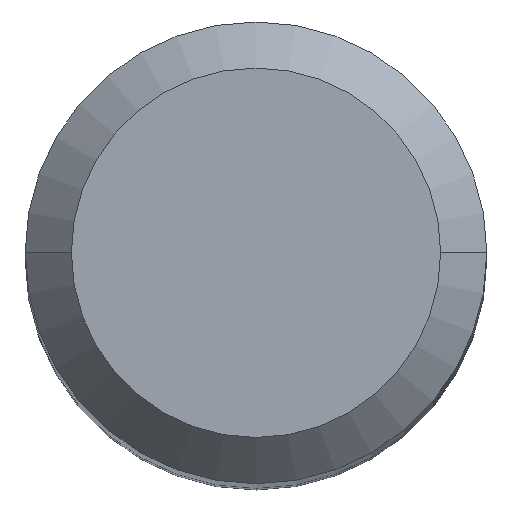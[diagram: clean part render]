
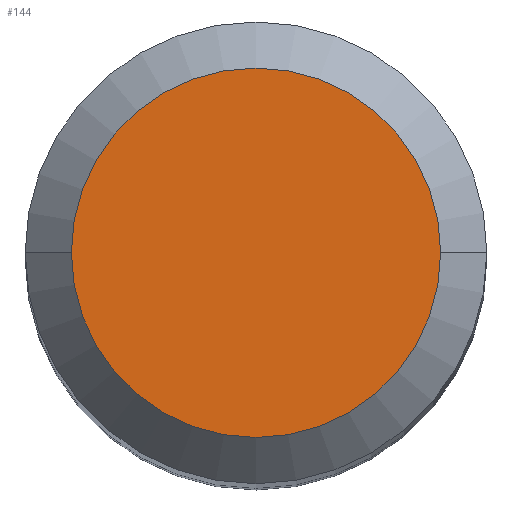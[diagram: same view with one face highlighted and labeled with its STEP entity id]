
A CAD part, top view. The second image highlights one B-rep face of the part: STEP entity #144.
In plain terms, the highlighted planar face has unit normal (0, 0, 1).
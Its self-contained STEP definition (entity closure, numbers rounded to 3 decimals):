
#5 = DIRECTION ( 'NONE',  ( -1., 0., 0. ) ) ;
#9 = CIRCLE ( 'NONE', #55, 4.72 ) ;
#11 = CARTESIAN_POINT ( 'NONE',  ( 0., 4.72, 0. ) ) ;
#34 = EDGE_CURVE ( 'NONE', #211, #343, #9, .T. ) ;
#43 = FACE_OUTER_BOUND ( 'NONE', #388, .T. ) ;
#55 = AXIS2_PLACEMENT_3D ( 'NONE', #311, #162, #5 ) ;
#100 = CIRCLE ( 'NONE', #108, 4.72 ) ;
#101 = AXIS2_PLACEMENT_3D ( 'NONE', #11, #195, #138 ) ;
#108 = AXIS2_PLACEMENT_3D ( 'NONE', #283, #284, #136 ) ;
#136 = DIRECTION ( 'NONE',  ( -1., 0., 0. ) ) ;
#138 = DIRECTION ( 'NONE',  ( 1., 0., 0. ) ) ;
#144 = ADVANCED_FACE ( 'NONE', ( #43 ), #166, .T. ) ;
#162 = DIRECTION ( 'NONE',  ( 0., 0., -1. ) ) ;
#166 = PLANE ( 'NONE',  #101 ) ;
#192 = EDGE_CURVE ( 'NONE', #343, #211, #100, .T. ) ;
#195 = DIRECTION ( 'NONE',  ( 0., 0., 1. ) ) ;
#197 = CARTESIAN_POINT ( 'NONE',  ( -4.72, 0., 0. ) ) ;
#211 = VERTEX_POINT ( 'NONE', #197 ) ;
#241 = ORIENTED_EDGE ( 'NONE', *, *, #192, .F. ) ;
#266 = CARTESIAN_POINT ( 'NONE',  ( 4.72, 0., 0. ) ) ;
#277 = ORIENTED_EDGE ( 'NONE', *, *, #34, .F. ) ;
#283 = CARTESIAN_POINT ( 'NONE',  ( 0., 0., 0. ) ) ;
#284 = DIRECTION ( 'NONE',  ( 0., 0., -1. ) ) ;
#311 = CARTESIAN_POINT ( 'NONE',  ( 0., 0., 0. ) ) ;
#343 = VERTEX_POINT ( 'NONE', #266 ) ;
#388 = EDGE_LOOP ( 'NONE', ( #277, #241 ) ) ;
